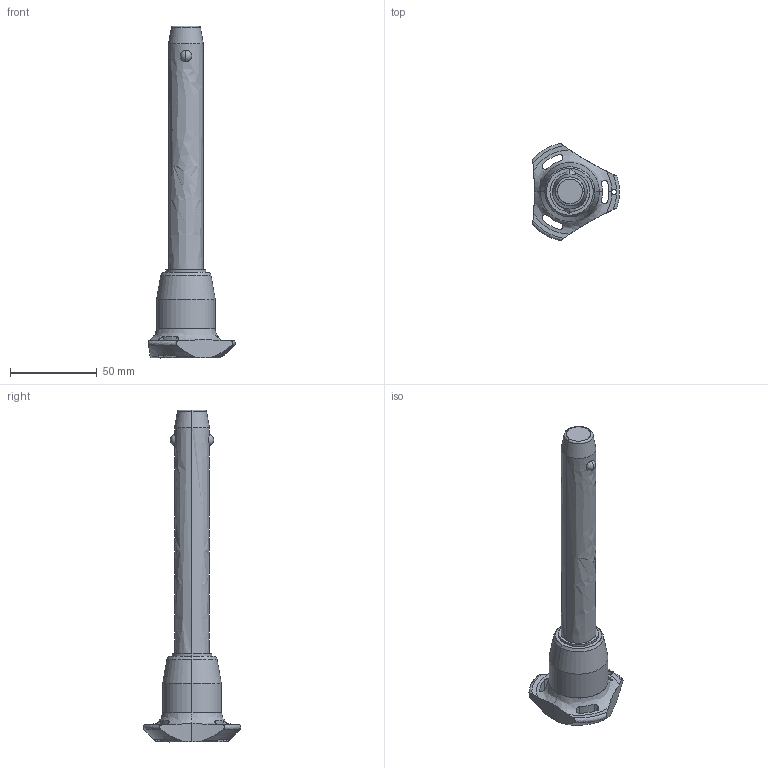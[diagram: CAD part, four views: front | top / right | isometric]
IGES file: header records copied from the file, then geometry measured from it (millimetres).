
Start section: SolidWorks IGES file using analytic representation for surfaces
Global section: file name: C:\Users\ianosborn\Desktop\QR1734_v2\QR1734_v2_20251113_IGES\QR1734.M20-120-S.igs; native system: SolidWorks 2019; preprocessor: SolidWorks 2019; author: IanOsborn; date: 251112.144241; units: millimetre
Bounding box: 50.03 x 56.02 x 191.2 mm (x, y, z)
Surface area: 18507.1 mm2 (no closed solid volume)
Topology: 0 solids, 0 shells, 65 faces, 1310 edges, 1306 vertices
Faces by surface type: revolution 50, bspline 15
